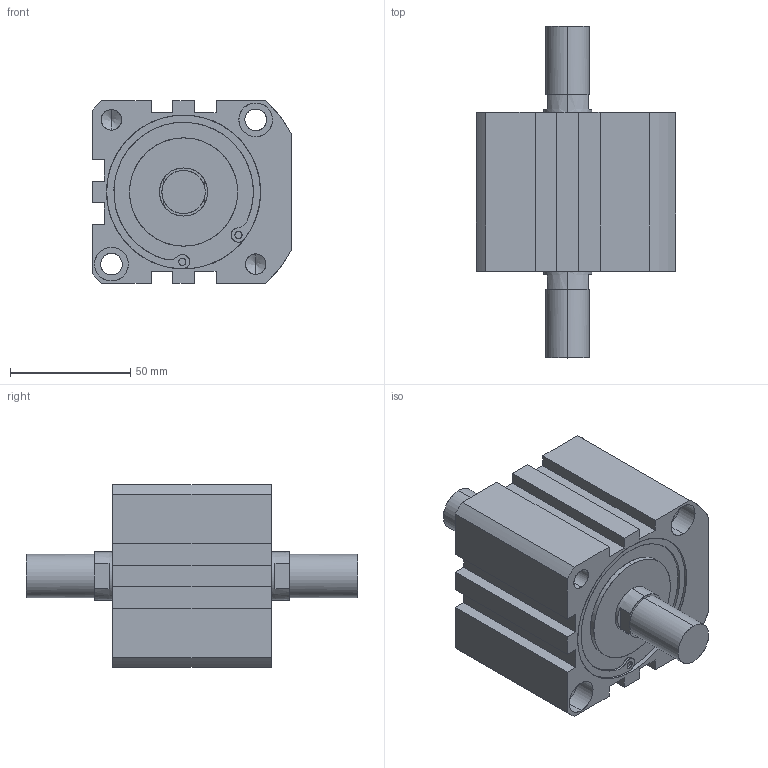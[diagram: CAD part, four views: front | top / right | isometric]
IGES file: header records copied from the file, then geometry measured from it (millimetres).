
Start section: SolidWorks IGES file using analytic representation for surfaces
Global section: file name: C:\Users\Toshiba\Desktop\XC#M7-63D-10.IGS; native system: SolidWorks 2014; preprocessor: SolidWorks 2014; author: Toshiba; date: 160523.170439; units: millimetre
Bounding box: 83 x 138 x 76 mm (x, y, z)
Surface area: 48884.1 mm2 (no closed solid volume)
Topology: 0 solids, 0 shells, 149 faces, 2738 edges, 2726 vertices
Faces by surface type: revolution 85, bspline 64
